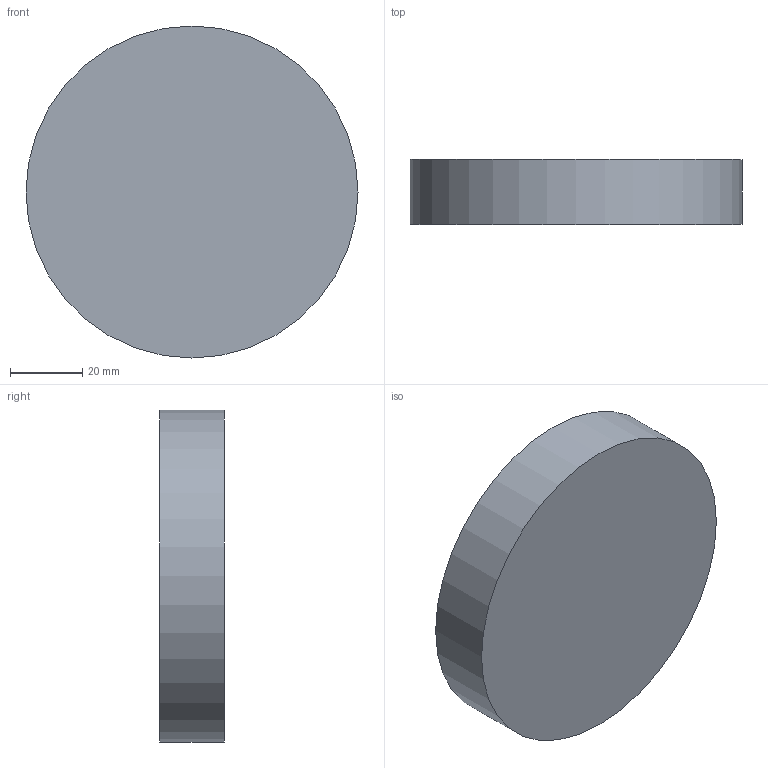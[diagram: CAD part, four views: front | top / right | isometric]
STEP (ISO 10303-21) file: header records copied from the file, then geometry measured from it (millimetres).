
FILE_DESCRIPTION(('Open CASCADE Model'),'2;1');
FILE_NAME('Open CASCADE Shape Model','2026-10-17T16:45:03',('Author'),( 'Open CASCADE'),'Open CASCADE STEP processor 8.0','build123d', 'Unknown');
FILE_SCHEMA(('AUTOMOTIVE_DESIGN { 1 0 10303 214 1 1 1 1 }'));
Length unit declared in the file: millimetre
Products named in the file (2): =>[0:1:1:2]; COMPOUND
Assembly tree (1 placements, depth 2):
  =>[0:1:1:2]
    COMPOUND
Bounding box: 92 x 18 x 92 mm (x, y, z)
Volume: 119657 mm3; surface area: 18497.7 mm2
Topology: 1 solids, 1 shells, 3 faces, 3 edges, 2 vertices
Faces by surface type: plane 2, cylinder 1
Full cylindrical faces by diameter (mm): 92 x1
Entity records: 126 total; most frequent: DIRECTION 21, CARTESIAN_POINT 16, AXIS2_PLACEMENT_3D 7, ORIENTED_EDGE 6, PCURVE 6, DEFINITIONAL_REPRESENTATION 6, LINE 5, VECTOR 5
